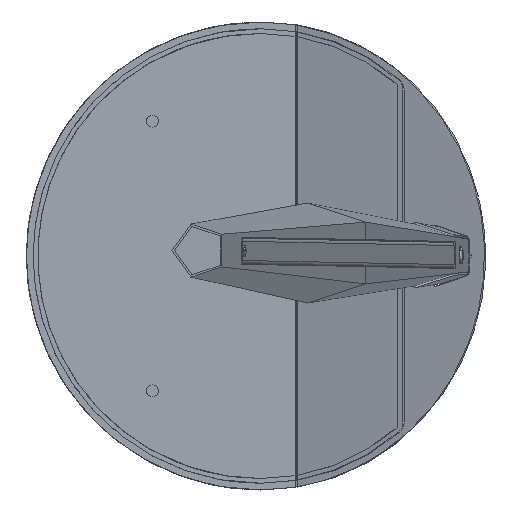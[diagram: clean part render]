
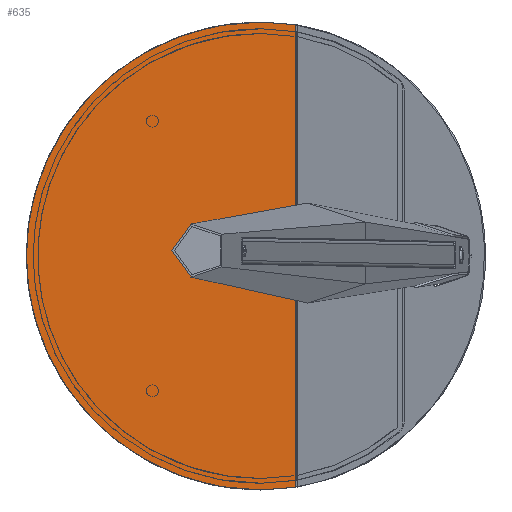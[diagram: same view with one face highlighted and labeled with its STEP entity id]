
A CAD part, top view. The second image highlights one B-rep face of the part: STEP entity #635.
In plain terms, the highlighted planar face has unit normal (0, 0, 1).
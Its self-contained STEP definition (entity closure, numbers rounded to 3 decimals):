
#635=ADVANCED_FACE('',(#1134),#7626,.T.);
#1134=FACE_OUTER_BOUND('',#1677,.T.);
#1677=EDGE_LOOP('',(#4118,#4119,#4120,#4121));
#4118=ORIENTED_EDGE('',*,*,#5369,.T.);
#4119=ORIENTED_EDGE('',*,*,#5290,.F.);
#4120=ORIENTED_EDGE('',*,*,#5286,.F.);
#4121=ORIENTED_EDGE('',*,*,#5368,.T.);
#5286=EDGE_CURVE('',#7318,#7319,#6574,.T.);
#5290=EDGE_CURVE('',#7319,#7322,#6576,.T.);
#5368=EDGE_CURVE('',#7318,#7374,#6185,.T.);
#5369=EDGE_CURVE('',#7374,#7322,#6606,.T.);
#6185=B_SPLINE_CURVE_WITH_KNOTS('',1,(#18989,#18990),.UNSPECIFIED.,.F.,
 .F.,(2,2),(0.,343.008),.UNSPECIFIED.);
#6574=(
BOUNDED_CURVE()
B_SPLINE_CURVE(2,(#18777,#18778,#18779),.UNSPECIFIED.,.F.,.F.)
B_SPLINE_CURVE_WITH_KNOTS((3,3),(0.,26.341),.UNSPECIFIED.)
CURVE()
GEOMETRIC_REPRESENTATION_ITEM()
RATIONAL_B_SPLINE_CURVE((1.,0.997,1.))
REPRESENTATION_ITEM('')
);
#6576=(
BOUNDED_CURVE()
B_SPLINE_CURVE(2,(#18787,#18788,#18789,#18790,#18791),.UNSPECIFIED.,.F.,
 .F.)
B_SPLINE_CURVE_WITH_KNOTS((3,2,3),(0.,272.533,545.066),
 .UNSPECIFIED.)
CURVE()
GEOMETRIC_REPRESENTATION_ITEM()
RATIONAL_B_SPLINE_CURVE((1.,0.707,1.,0.707,1.))
REPRESENTATION_ITEM('')
);
#6606=(
BOUNDED_CURVE()
B_SPLINE_CURVE(2,(#18991,#18992,#18993),.UNSPECIFIED.,.F.,.F.)
B_SPLINE_CURVE_WITH_KNOTS((3,3),(-26.341,0.),.UNSPECIFIED.)
CURVE()
GEOMETRIC_REPRESENTATION_ITEM()
RATIONAL_B_SPLINE_CURVE((1.,0.997,1.))
REPRESENTATION_ITEM('')
);
#7318=VERTEX_POINT('',#18719);
#7319=VERTEX_POINT('',#18720);
#7322=VERTEX_POINT('',#18723);
#7374=VERTEX_POINT('',#18775);
#7626=PLANE('',#8109);
#8109=AXIS2_PLACEMENT_3D('',#18647,#8364,$);
#8364=DIRECTION('',(0.,0.,1.));
#18647=CARTESIAN_POINT('',(-193.474,1261.667,-1046.967));
#18719=CARTESIAN_POINT('',(26.24,881.963,-1046.967));
#18720=CARTESIAN_POINT('',(0.,879.967,-1046.967));
#18723=CARTESIAN_POINT('',(0.,1226.967,-1046.967));
#18775=CARTESIAN_POINT('',(26.24,1224.971,-1046.967));
#18777=CARTESIAN_POINT('',(26.24,881.963,-1046.967));
#18778=CARTESIAN_POINT('',(13.196,879.967,-1046.967));
#18779=CARTESIAN_POINT('',(0.,879.967,-1046.967));
#18787=CARTESIAN_POINT('',(0.,879.967,-1046.967));
#18788=CARTESIAN_POINT('',(-173.5,879.967,-1046.967));
#18789=CARTESIAN_POINT('',(-173.5,1053.467,-1046.967));
#18790=CARTESIAN_POINT('',(-173.5,1226.967,-1046.967));
#18791=CARTESIAN_POINT('',(0.,1226.967,-1046.967));
#18989=CARTESIAN_POINT('',(26.24,881.963,-1046.967));
#18990=CARTESIAN_POINT('',(26.24,1224.971,-1046.967));
#18991=CARTESIAN_POINT('',(26.24,1224.971,-1046.967));
#18992=CARTESIAN_POINT('',(13.196,1226.967,-1046.967));
#18993=CARTESIAN_POINT('',(0.,1226.967,-1046.967));
